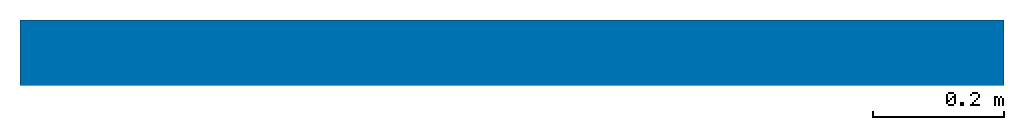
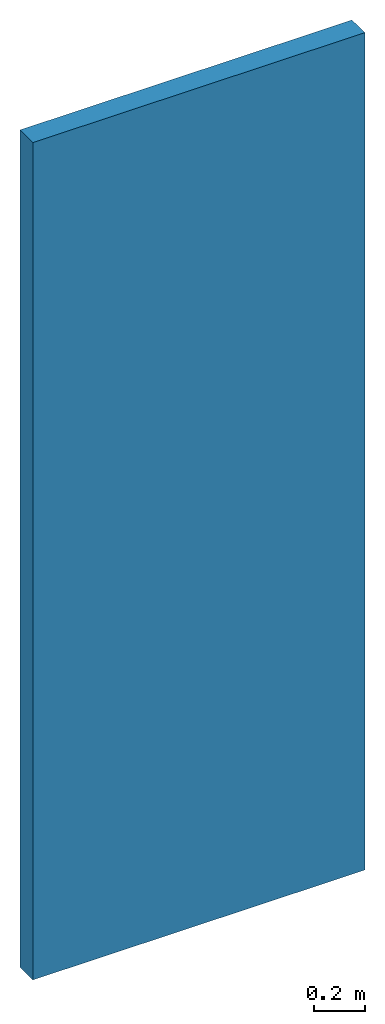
# One storey: 1 wall.
"""IFC2X3 building model written with IfcOpenShell, lengths in millimetres."""

from ifc_helpers import new_model, entity, si_unit, converted_unit, derived_unit, direction, frame, frame_2d, origin, place, context, subcontext, project, spatial, rectangle, extrude, material, layer, layer_set, layer_usage, type_object, element, save


model = new_model("IFC2X3")

# Units and contexts
model_context = context("Model", 3, precision=0.01, world=origin(), true_north=direction((6.12303176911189e-17, 1.0)))
body_context = subcontext(model_context, "Body", "Model", "MODEL_VIEW")
ifc_project = project(units=[si_unit("LENGTHUNIT", "METRE", prefix="MILLI"), si_unit("AREAUNIT", "SQUARE_METRE"), si_unit("VOLUMEUNIT", "CUBIC_METRE"), converted_unit("PLANEANGLEUNIT", "DEGREE", entity("IfcRatioMeasure", 0.0174532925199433), si_unit("PLANEANGLEUNIT", "RADIAN"), dimensions=[0, 0, 0, 0, 0, 0, 0]), si_unit("MASSUNIT", "GRAM", prefix="KILO"), si_unit("TIMEUNIT", "SECOND"), si_unit("FREQUENCYUNIT", "HERTZ"), si_unit("THERMODYNAMICTEMPERATUREUNIT", "KELVIN"), derived_unit("THERMALTRANSMITTANCEUNIT", [(si_unit("MASSUNIT", "GRAM", prefix="KILO"), 1), (si_unit("THERMODYNAMICTEMPERATUREUNIT", "KELVIN"), -1), (si_unit("TIMEUNIT", "SECOND"), -3)]), derived_unit("VOLUMETRICFLOWRATEUNIT", [(si_unit("LENGTHUNIT", "METRE"), 3), (si_unit("TIMEUNIT", "SECOND"), -1)]), si_unit("ELECTRICCURRENTUNIT", "AMPERE"), si_unit("ELECTRICVOLTAGEUNIT", "VOLT"), si_unit("POWERUNIT", "WATT")], contexts=[model_context])

# Site, building, storey
site_placement = place(None, origin())
site = spatial("IfcSite", under=ifc_project, at=site_placement, Name="Default", CompositionType="ELEMENT")
building_placement = place(site_placement, origin())
building = spatial("IfcBuilding", under=site, at=building_placement, CompositionType="ELEMENT")
storey_placement = place(building_placement, origin())
storey = spatial("IfcBuildingStorey", under=building, at=storey_placement, Name="00_begane grond", CompositionType="ELEMENT", Elevation=0.0)

# Wall
ifc_material = material(Name="20_baksteen_wf_210x100x50_10mm_voeg_halfsteens_rood_genuanceerd")
ifc_layer = layer(ifc_material, 100.0)
ifc_layer_set = layer_set([ifc_layer], Name="Basic Wall:20_WA_wand_generiek_100")
ifc_layer_usage = layer_usage(ifc_layer_set, "AXIS2", "NEGATIVE", 50.0)
wall_type = type_object("IfcWallType", Name="Basic Wall:20_WA_wand_generiek_100", PredefinedType="STANDARD", material=ifc_layer_set)
wall_placement = place(storey_placement, frame((29689.8687148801, -6248.9380073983, 0.0)))
element("IfcWallStandardCase", 1, at=wall_placement, inside=storey, type_object=wall_type, material=ifc_layer_usage, Name="Basic Wall:20_WA_wand_generiek_100", ObjectType="Basic Wall:20_WA_wand_generiek_100:1384", context=body_context, shape_type="SweptSolid", body=[
    extrude(rectangle(XDim=1500.0, YDim=99.9999999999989, at=frame_2d((750.000000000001, -7.8159700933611e-14), x_axis=(-1.0, 0.0))), origin(), (0.0, 0.0, 1.0), 4000.0),
])

save(model, "model.ifc")
